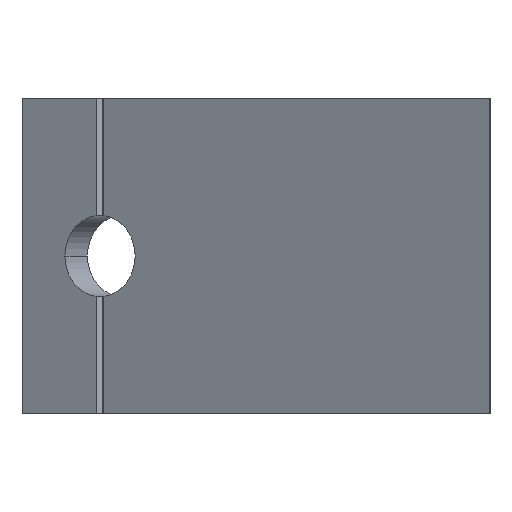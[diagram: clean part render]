
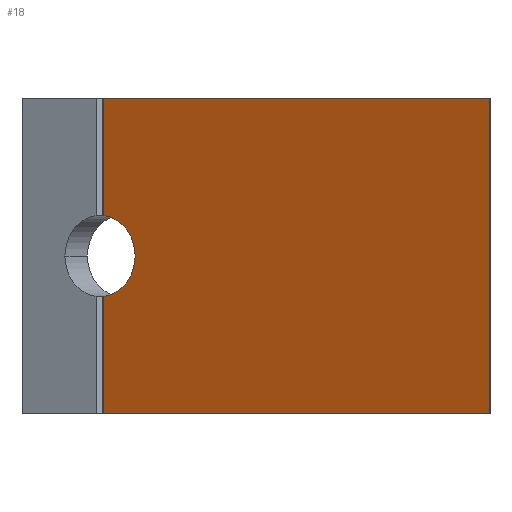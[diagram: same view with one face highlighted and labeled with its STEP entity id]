
A CAD part, left-side view. The second image highlights one B-rep face of the part: STEP entity #18.
In plain terms, the highlighted planar face has unit normal (-0.866, 0.5, 0).
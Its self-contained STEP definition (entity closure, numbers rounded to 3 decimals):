
#18 = ADVANCED_FACE ( 'NONE', ( #494 ), #1239, .F. ) ;
#52 = EDGE_CURVE ( 'NONE', #746, #705, #483, .T. ) ;
#53 = EDGE_CURVE ( 'NONE', #727, #746, #475, .T. ) ;
#54 = EDGE_CURVE ( 'NONE', #714, #706, #473, .T. ) ;
#55 = EDGE_CURVE ( 'NONE', #700, #706, #471, .T. ) ;
#56 = EDGE_CURVE ( 'NONE', #705, #700, #470, .T. ) ;
#66 = EDGE_CURVE ( 'NONE', #714, #753, #451, .T. ) ;
#71 = EDGE_CURVE ( 'NONE', #753, #727, #449, .T. ) ;
#156 = CARTESIAN_POINT ( 'NONE',  ( 24.75, 42.868, 4.472 ) ) ;
#174 = CARTESIAN_POINT ( 'NONE',  ( 22.75, 39.404, 0. ) ) ;
#188 = CARTESIAN_POINT ( 'NONE',  ( 24.75, 42.868, -17.5 ) ) ;
#194 = CARTESIAN_POINT ( 'NONE',  ( 24.75, 42.868, 17.5 ) ) ;
#195 = CARTESIAN_POINT ( 'NONE',  ( 0., 0., -17.5 ) ) ;
#200 = CARTESIAN_POINT ( 'NONE',  ( 0., 0., 17.5 ) ) ;
#262 = CARTESIAN_POINT ( 'NONE',  ( 24.75, 42.868, -4.472 ) ) ;
#448 = VECTOR ( 'NONE', #1199, 1000. ) ;
#449 = CIRCLE ( 'NONE', #546, 4.5 ) ;
#451 = LINE ( 'NONE', #1205, #448 ) ;
#465 = VECTOR ( 'NONE', #1266, 1000. ) ;
#467 = VECTOR ( 'NONE', #1271, 1000. ) ;
#469 = VECTOR ( 'NONE', #1294, 1000. ) ;
#470 = LINE ( 'NONE', #1290, #465 ) ;
#471 = LINE ( 'NONE', #1289, #467 ) ;
#472 = VECTOR ( 'NONE', #1295, 1000. ) ;
#473 = LINE ( 'NONE', #1288, #469 ) ;
#475 = CIRCLE ( 'NONE', #554, 4.5 ) ;
#483 = LINE ( 'NONE', #1163, #472 ) ;
#494 = FACE_OUTER_BOUND ( 'NONE', #639, .T. ) ;
#546 = AXIS2_PLACEMENT_3D ( 'NONE', #1178, #1177, #1176 ) ;
#554 = AXIS2_PLACEMENT_3D ( 'NONE', #1287, #1286, #1285 ) ;
#565 = AXIS2_PLACEMENT_3D ( 'NONE', #1247, #1237, #1236 ) ;
#639 = EDGE_LOOP ( 'NONE', ( #818, #817, #816, #815, #814, #813, #812 ) ) ;
#700 = VERTEX_POINT ( 'NONE', #200 ) ;
#705 = VERTEX_POINT ( 'NONE', #194 ) ;
#706 = VERTEX_POINT ( 'NONE', #195 ) ;
#714 = VERTEX_POINT ( 'NONE', #188 ) ;
#727 = VERTEX_POINT ( 'NONE', #174 ) ;
#746 = VERTEX_POINT ( 'NONE', #156 ) ;
#753 = VERTEX_POINT ( 'NONE', #262 ) ;
#812 = ORIENTED_EDGE ( 'NONE', *, *, #56, .F. ) ;
#813 = ORIENTED_EDGE ( 'NONE', *, *, #55, .F. ) ;
#814 = ORIENTED_EDGE ( 'NONE', *, *, #54, .T. ) ;
#815 = ORIENTED_EDGE ( 'NONE', *, *, #66, .F. ) ;
#816 = ORIENTED_EDGE ( 'NONE', *, *, #71, .F. ) ;
#817 = ORIENTED_EDGE ( 'NONE', *, *, #53, .F. ) ;
#818 = ORIENTED_EDGE ( 'NONE', *, *, #52, .F. ) ;
#1163 = CARTESIAN_POINT ( 'NONE',  ( 24.75, 42.868, -17.501 ) ) ;
#1176 = DIRECTION ( 'NONE',  ( -0.5, -0.866, 0. ) ) ;
#1177 = DIRECTION ( 'NONE',  ( -0.866, 0.5, 0. ) ) ;
#1178 = CARTESIAN_POINT ( 'NONE',  ( 25., 43.301, 0. ) ) ;
#1199 = DIRECTION ( 'NONE',  ( 0., 0., 1. ) ) ;
#1205 = CARTESIAN_POINT ( 'NONE',  ( 24.75, 42.868, -17.501 ) ) ;
#1236 = DIRECTION ( 'NONE',  ( 0.5, 0.866, 0. ) ) ;
#1237 = DIRECTION ( 'NONE',  ( 0.866, -0.5, 0. ) ) ;
#1239 = PLANE ( 'NONE',  #565 ) ;
#1247 = CARTESIAN_POINT ( 'NONE',  ( 0., 0., 17.5 ) ) ;
#1266 = DIRECTION ( 'NONE',  ( -0.5, -0.866, 0. ) ) ;
#1271 = DIRECTION ( 'NONE',  ( 0., 0., -1. ) ) ;
#1285 = DIRECTION ( 'NONE',  ( -0.5, -0.866, 0. ) ) ;
#1286 = DIRECTION ( 'NONE',  ( -0.866, 0.5, 0. ) ) ;
#1287 = CARTESIAN_POINT ( 'NONE',  ( 25., 43.301, 0. ) ) ;
#1288 = CARTESIAN_POINT ( 'NONE',  ( 0., 0., -17.5 ) ) ;
#1289 = CARTESIAN_POINT ( 'NONE',  ( 0., 0., 17.5 ) ) ;
#1290 = CARTESIAN_POINT ( 'NONE',  ( 0., 0., 17.5 ) ) ;
#1294 = DIRECTION ( 'NONE',  ( -0.5, -0.866, 0. ) ) ;
#1295 = DIRECTION ( 'NONE',  ( 0., 0., 1. ) ) ;
